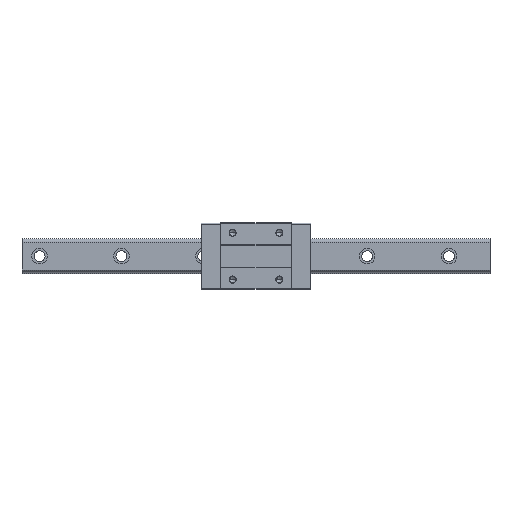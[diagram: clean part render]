
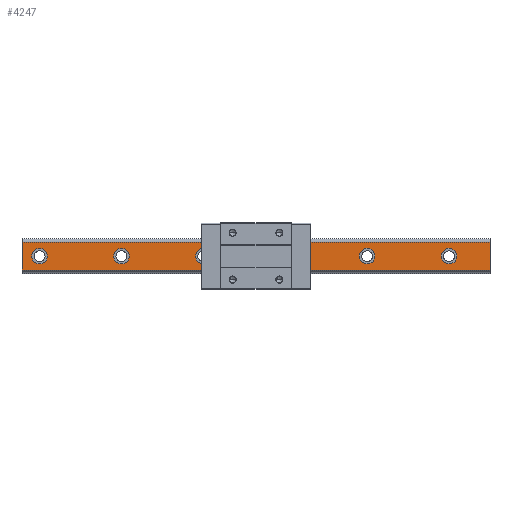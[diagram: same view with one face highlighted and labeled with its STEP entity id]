
A CAD part, top view. The second image highlights one B-rep face of the part: STEP entity #4247.
In plain terms, the highlighted planar face has unit normal (0, 0, 1).
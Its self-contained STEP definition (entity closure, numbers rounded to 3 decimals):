
#3 = ORIENTED_EDGE ( 'NONE', *, *, #5252, .F. ) ;
#17 = VERTEX_POINT ( 'NONE', #2239 ) ;
#23 = CARTESIAN_POINT ( 'NONE',  ( -182.5, 0., 32. ) ) ;
#36 = VECTOR ( 'NONE', #1061, 1000. ) ;
#51 = DIRECTION ( 'NONE',  ( 1., 0., 0. ) ) ;
#68 = DIRECTION ( 'NONE',  ( 1., 0., 0. ) ) ;
#74 = EDGE_CURVE ( 'NONE', #3690, #1885, #2433, .T. ) ;
#136 = EDGE_CURVE ( 'NONE', #17, #3234, #2681, .T. ) ;
#139 = EDGE_LOOP ( 'NONE', ( #1841, #4457 ) ) ;
#172 = EDGE_LOOP ( 'NONE', ( #5218, #290, #5143, #1272 ) ) ;
#201 = EDGE_CURVE ( 'NONE', #3005, #203, #1766, .T. ) ;
#203 = VERTEX_POINT ( 'NONE', #23 ) ;
#206 = FACE_BOUND ( 'NONE', #3575, .T. ) ;
#257 = FACE_BOUND ( 'NONE', #139, .T. ) ;
#290 = ORIENTED_EDGE ( 'NONE', *, *, #303, .F. ) ;
#303 = EDGE_CURVE ( 'NONE', #1885, #5035, #1295, .T. ) ;
#327 = DIRECTION ( 'NONE',  ( 0., 0., 1. ) ) ;
#379 = DIRECTION ( 'NONE',  ( 0., 0., 1. ) ) ;
#397 = AXIS2_PLACEMENT_3D ( 'NONE', #2983, #3377, #2527 ) ;
#445 = CIRCLE ( 'NONE', #4608, 10. ) ;
#475 = CARTESIAN_POINT ( 'NONE',  ( 142.5, 0., 32. ) ) ;
#491 = DIRECTION ( 'NONE',  ( 0., 0., 1. ) ) ;
#524 = VERTEX_POINT ( 'NONE', #2405 ) ;
#550 = DIRECTION ( 'NONE',  ( 1., 0., 0. ) ) ;
#552 = DIRECTION ( 'NONE',  ( 1., 0., 0. ) ) ;
#586 = CIRCLE ( 'NONE', #397, 10. ) ;
#777 = EDGE_LOOP ( 'NONE', ( #2052, #3 ) ) ;
#779 = CARTESIAN_POINT ( 'NONE',  ( -172.5, 0., 32. ) ) ;
#819 = EDGE_CURVE ( 'NONE', #959, #3363, #1661, .T. ) ;
#832 = DIRECTION ( 'NONE',  ( 0., 0., 1. ) ) ;
#858 = VECTOR ( 'NONE', #3771, 1000. ) ;
#868 = EDGE_CURVE ( 'NONE', #3690, #1746, #3301, .T. ) ;
#959 = VERTEX_POINT ( 'NONE', #3239 ) ;
#980 = CIRCLE ( 'NONE', #2795, 10. ) ;
#1004 = ORIENTED_EDGE ( 'NONE', *, *, #819, .F. ) ;
#1007 = VERTEX_POINT ( 'NONE', #2473 ) ;
#1019 = CARTESIAN_POINT ( 'NONE',  ( -300., 17.696, 32. ) ) ;
#1061 = DIRECTION ( 'NONE',  ( -1., 0., 0. ) ) ;
#1083 = AXIS2_PLACEMENT_3D ( 'NONE', #3882, #379, #51 ) ;
#1107 = CARTESIAN_POINT ( 'NONE',  ( 300., -17.696, 32. ) ) ;
#1272 = ORIENTED_EDGE ( 'NONE', *, *, #868, .T. ) ;
#1295 = LINE ( 'NONE', #3029, #4664 ) ;
#1303 = CIRCLE ( 'NONE', #1390, 10. ) ;
#1308 = ORIENTED_EDGE ( 'NONE', *, *, #3918, .F. ) ;
#1322 = DIRECTION ( 'NONE',  ( 1., 0., 0. ) ) ;
#1390 = AXIS2_PLACEMENT_3D ( 'NONE', #2647, #491, #68 ) ;
#1446 = CARTESIAN_POINT ( 'NONE',  ( -162.5, 0., 32. ) ) ;
#1467 = DIRECTION ( 'NONE',  ( 0., -1., 0. ) ) ;
#1487 = CARTESIAN_POINT ( 'NONE',  ( 300., 17.696, 32. ) ) ;
#1606 = VECTOR ( 'NONE', #1467, 1000. ) ;
#1661 = CIRCLE ( 'NONE', #2209, 10. ) ;
#1746 = VERTEX_POINT ( 'NONE', #1019 ) ;
#1766 = CIRCLE ( 'NONE', #4933, 10. ) ;
#1778 = CARTESIAN_POINT ( 'NONE',  ( 300., -17.696, 32. ) ) ;
#1783 = DIRECTION ( 'NONE',  ( 0., 0., 1. ) ) ;
#1818 = CARTESIAN_POINT ( 'NONE',  ( -287.5, 0., 32. ) ) ;
#1833 = EDGE_CURVE ( 'NONE', #524, #1007, #2352, .T. ) ;
#1840 = CARTESIAN_POINT ( 'NONE',  ( 257.5, 0., 32. ) ) ;
#1841 = ORIENTED_EDGE ( 'NONE', *, *, #3669, .F. ) ;
#1885 = VERTEX_POINT ( 'NONE', #1778 ) ;
#1887 = CIRCLE ( 'NONE', #4332, 10. ) ;
#1979 = CARTESIAN_POINT ( 'NONE',  ( 247.5, 0., 32. ) ) ;
#1982 = CARTESIAN_POINT ( 'NONE',  ( 142.5, 0., 32. ) ) ;
#2052 = ORIENTED_EDGE ( 'NONE', *, *, #4162, .F. ) ;
#2055 = EDGE_LOOP ( 'NONE', ( #3008, #2358 ) ) ;
#2081 = CIRCLE ( 'NONE', #3627, 10. ) ;
#2083 = DIRECTION ( 'NONE',  ( 1., 0., 0. ) ) ;
#2149 = CARTESIAN_POINT ( 'NONE',  ( -172.5, 0., 32. ) ) ;
#2209 = AXIS2_PLACEMENT_3D ( 'NONE', #3592, #3190, #5314 ) ;
#2239 = CARTESIAN_POINT ( 'NONE',  ( 237.5, 0., 32. ) ) ;
#2277 = CARTESIAN_POINT ( 'NONE',  ( -267.5, 0., 32. ) ) ;
#2352 = CIRCLE ( 'NONE', #1083, 10. ) ;
#2358 = ORIENTED_EDGE ( 'NONE', *, *, #4029, .F. ) ;
#2405 = CARTESIAN_POINT ( 'NONE',  ( -57.5, 0., 32. ) ) ;
#2433 = LINE ( 'NONE', #4143, #858 ) ;
#2444 = FACE_BOUND ( 'NONE', #2810, .T. ) ;
#2453 = EDGE_CURVE ( 'NONE', #1007, #524, #2926, .T. ) ;
#2473 = CARTESIAN_POINT ( 'NONE',  ( -77.5, 0., 32. ) ) ;
#2505 = CARTESIAN_POINT ( 'NONE',  ( 152.5, 0., 32. ) ) ;
#2527 = DIRECTION ( 'NONE',  ( 1., 0., 0. ) ) ;
#2577 = CARTESIAN_POINT ( 'NONE',  ( 300., 17.696, 32. ) ) ;
#2647 = CARTESIAN_POINT ( 'NONE',  ( 37.5, 0., 32. ) ) ;
#2681 = CIRCLE ( 'NONE', #5208, 10. ) ;
#2756 = CARTESIAN_POINT ( 'NONE',  ( 132.5, 0., 32. ) ) ;
#2780 = DIRECTION ( 'NONE',  ( 0., 0., 1. ) ) ;
#2795 = AXIS2_PLACEMENT_3D ( 'NONE', #475, #1783, #3512 ) ;
#2810 = EDGE_LOOP ( 'NONE', ( #1308, #5460 ) ) ;
#2926 = CIRCLE ( 'NONE', #5096, 10. ) ;
#2930 = EDGE_CURVE ( 'NONE', #5348, #3975, #1887, .T. ) ;
#2972 = EDGE_CURVE ( 'NONE', #1746, #5035, #4957, .T. ) ;
#2983 = CARTESIAN_POINT ( 'NONE',  ( -277.5, 0., 32. ) ) ;
#3005 = VERTEX_POINT ( 'NONE', #1446 ) ;
#3008 = ORIENTED_EDGE ( 'NONE', *, *, #201, .F. ) ;
#3029 = CARTESIAN_POINT ( 'NONE',  ( 300., -17.696, 32. ) ) ;
#3185 = CARTESIAN_POINT ( 'NONE',  ( -67.5, 0., 32. ) ) ;
#3190 = DIRECTION ( 'NONE',  ( 0., 0., 1. ) ) ;
#3234 = VERTEX_POINT ( 'NONE', #1840 ) ;
#3239 = CARTESIAN_POINT ( 'NONE',  ( 27.5, 0., 32. ) ) ;
#3263 = FACE_BOUND ( 'NONE', #2055, .T. ) ;
#3290 = FACE_BOUND ( 'NONE', #4821, .T. ) ;
#3301 = LINE ( 'NONE', #1487, #36 ) ;
#3363 = VERTEX_POINT ( 'NONE', #5350 ) ;
#3377 = DIRECTION ( 'NONE',  ( 0., 0., 1. ) ) ;
#3482 = DIRECTION ( 'NONE',  ( -1., 0., 0. ) ) ;
#3512 = DIRECTION ( 'NONE',  ( 1., 0., 0. ) ) ;
#3575 = EDGE_LOOP ( 'NONE', ( #4440, #3673 ) ) ;
#3592 = CARTESIAN_POINT ( 'NONE',  ( 37.5, 0., 32. ) ) ;
#3627 = AXIS2_PLACEMENT_3D ( 'NONE', #4438, #3936, #550 ) ;
#3639 = DIRECTION ( 'NONE',  ( 1., 0., 0. ) ) ;
#3669 = EDGE_CURVE ( 'NONE', #3975, #5348, #980, .T. ) ;
#3673 = ORIENTED_EDGE ( 'NONE', *, *, #2453, .F. ) ;
#3690 = VERTEX_POINT ( 'NONE', #2577 ) ;
#3771 = DIRECTION ( 'NONE',  ( 0., -1., 0. ) ) ;
#3882 = CARTESIAN_POINT ( 'NONE',  ( -67.5, 0., 32. ) ) ;
#3916 = DIRECTION ( 'NONE',  ( 0., 0., 1. ) ) ;
#3918 = EDGE_CURVE ( 'NONE', #3234, #17, #5056, .T. ) ;
#3936 = DIRECTION ( 'NONE',  ( 0., 0., 1. ) ) ;
#3953 = ORIENTED_EDGE ( 'NONE', *, *, #4895, .F. ) ;
#3975 = VERTEX_POINT ( 'NONE', #2505 ) ;
#4029 = EDGE_CURVE ( 'NONE', #203, #3005, #445, .T. ) ;
#4073 = DIRECTION ( 'NONE',  ( -1., 0., 0. ) ) ;
#4116 = DIRECTION ( 'NONE',  ( 1., 0., 0. ) ) ;
#4143 = CARTESIAN_POINT ( 'NONE',  ( 300., -17.696, 32. ) ) ;
#4162 = EDGE_CURVE ( 'NONE', #4167, #5439, #2081, .T. ) ;
#4167 = VERTEX_POINT ( 'NONE', #2277 ) ;
#4238 = DIRECTION ( 'NONE',  ( 0., 0., 1. ) ) ;
#4247 = ADVANCED_FACE ( 'NONE', ( #2444, #257, #3290, #206, #3263, #5442, #5360 ), #4542, .F. ) ;
#4332 = AXIS2_PLACEMENT_3D ( 'NONE', #1982, #2780, #3639 ) ;
#4438 = CARTESIAN_POINT ( 'NONE',  ( -277.5, 0., 32. ) ) ;
#4439 = DIRECTION ( 'NONE',  ( 0., 0., 1. ) ) ;
#4440 = ORIENTED_EDGE ( 'NONE', *, *, #1833, .F. ) ;
#4457 = ORIENTED_EDGE ( 'NONE', *, *, #2930, .F. ) ;
#4542 = PLANE ( 'NONE',  #5251 ) ;
#4608 = AXIS2_PLACEMENT_3D ( 'NONE', #779, #4238, #1322 ) ;
#4664 = VECTOR ( 'NONE', #3482, 1000. ) ;
#4733 = CARTESIAN_POINT ( 'NONE',  ( -300., -17.696, 32. ) ) ;
#4786 = DIRECTION ( 'NONE',  ( 1., 0., 0. ) ) ;
#4821 = EDGE_LOOP ( 'NONE', ( #3953, #1004 ) ) ;
#4895 = EDGE_CURVE ( 'NONE', #3363, #959, #1303, .T. ) ;
#4933 = AXIS2_PLACEMENT_3D ( 'NONE', #2149, #3916, #4786 ) ;
#4957 = LINE ( 'NONE', #5330, #1606 ) ;
#5035 = VERTEX_POINT ( 'NONE', #4733 ) ;
#5056 = CIRCLE ( 'NONE', #5153, 10. ) ;
#5096 = AXIS2_PLACEMENT_3D ( 'NONE', #3185, #4439, #552 ) ;
#5140 = CARTESIAN_POINT ( 'NONE',  ( 247.5, 0., 32. ) ) ;
#5143 = ORIENTED_EDGE ( 'NONE', *, *, #74, .F. ) ;
#5153 = AXIS2_PLACEMENT_3D ( 'NONE', #5140, #832, #2083 ) ;
#5208 = AXIS2_PLACEMENT_3D ( 'NONE', #1979, #327, #4116 ) ;
#5218 = ORIENTED_EDGE ( 'NONE', *, *, #2972, .T. ) ;
#5251 = AXIS2_PLACEMENT_3D ( 'NONE', #1107, #5415, #4073 ) ;
#5252 = EDGE_CURVE ( 'NONE', #5439, #4167, #586, .T. ) ;
#5314 = DIRECTION ( 'NONE',  ( 1., 0., 0. ) ) ;
#5330 = CARTESIAN_POINT ( 'NONE',  ( -300., -17.696, 32. ) ) ;
#5348 = VERTEX_POINT ( 'NONE', #2756 ) ;
#5350 = CARTESIAN_POINT ( 'NONE',  ( 47.5, 0., 32. ) ) ;
#5360 = FACE_OUTER_BOUND ( 'NONE', #172, .T. ) ;
#5415 = DIRECTION ( 'NONE',  ( 0., 0., -1. ) ) ;
#5439 = VERTEX_POINT ( 'NONE', #1818 ) ;
#5442 = FACE_BOUND ( 'NONE', #777, .T. ) ;
#5460 = ORIENTED_EDGE ( 'NONE', *, *, #136, .F. ) ;
